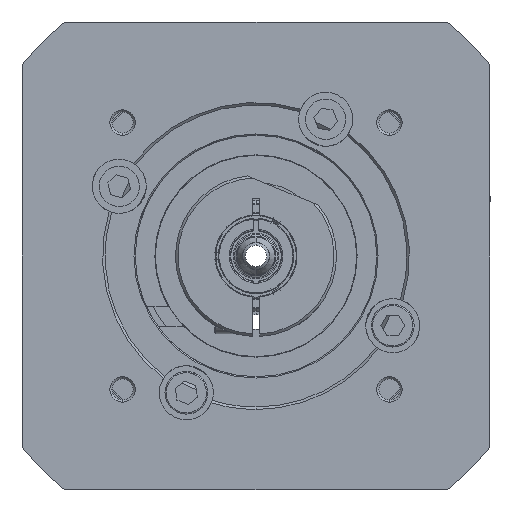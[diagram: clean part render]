
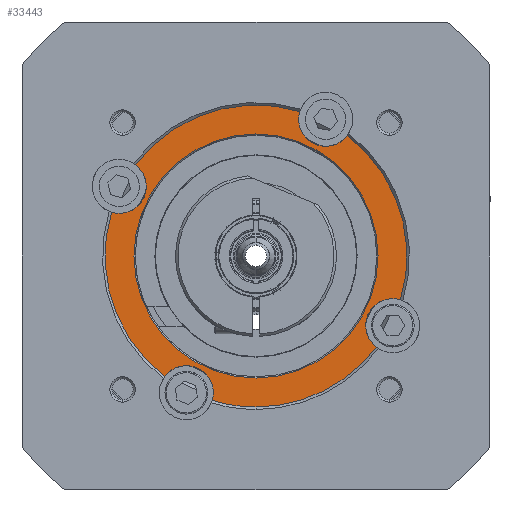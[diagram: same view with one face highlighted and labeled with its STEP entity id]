
A CAD part, left-side view. The second image highlights one B-rep face of the part: STEP entity #33443.
In plain terms, the highlighted planar face has unit normal (-1, 0, 0).
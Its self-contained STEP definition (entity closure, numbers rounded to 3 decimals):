
#283 = DIRECTION ( 'NONE',  ( -1., 0., 0. ) ) ;
#553 = CARTESIAN_POINT ( 'NONE',  ( -124.5, 13.847, -27.176 ) ) ;
#852 = CIRCLE ( 'NONE', #51006, 30. ) ;
#1093 = VERTEX_POINT ( 'NONE', #28177 ) ;
#1187 = EDGE_CURVE ( 'NONE', #59121, #57963, #2959, .T. ) ;
#1217 = EDGE_CURVE ( 'NONE', #57963, #59121, #36415, .T. ) ;
#2654 = CARTESIAN_POINT ( 'NONE',  ( -124.5, 27.176, 8.472 ) ) ;
#2959 = CIRCLE ( 'NONE', #28515, 24.25 ) ;
#3158 = CARTESIAN_POINT ( 'NONE',  ( -124.5, 0., 0. ) ) ;
#3532 = CARTESIAN_POINT ( 'NONE',  ( -124.5, 0., 0. ) ) ;
#4374 = DIRECTION ( 'NONE',  ( 0., 0., -1. ) ) ;
#4661 = DIRECTION ( 'NONE',  ( 0., 0., -1. ) ) ;
#4784 = CARTESIAN_POINT ( 'NONE',  ( -124.5, 0., 0. ) ) ;
#5007 = ORIENTED_EDGE ( 'NONE', *, *, #29647, .F. ) ;
#5082 = DIRECTION ( 'NONE',  ( 1., 0., 0. ) ) ;
#5501 = VERTEX_POINT ( 'NONE', #11294 ) ;
#6573 = DIRECTION ( 'NONE',  ( 0., 0., -1. ) ) ;
#6609 = ORIENTED_EDGE ( 'NONE', *, *, #1217, .T. ) ;
#7127 = VERTEX_POINT ( 'NONE', #8046 ) ;
#8046 = CARTESIAN_POINT ( 'NONE',  ( -124.5, -27.176, -8.472 ) ) ;
#8076 = CARTESIAN_POINT ( 'NONE',  ( -124.5, 0., 0. ) ) ;
#8479 = AXIS2_PLACEMENT_3D ( 'NONE', #553, #46713, #52236 ) ;
#8754 = DIRECTION ( 'NONE',  ( -1., 0., 0. ) ) ;
#8795 = DIRECTION ( 'NONE',  ( 0., 0., -1. ) ) ;
#9565 = AXIS2_PLACEMENT_3D ( 'NONE', #20741, #53333, #6573 ) ;
#9774 = CARTESIAN_POINT ( 'NONE',  ( -124.5, 0., -24.25 ) ) ;
#10018 = DIRECTION ( 'NONE',  ( 0., 0., -1. ) ) ;
#10309 = ORIENTED_EDGE ( 'NONE', *, *, #31196, .T. ) ;
#10652 = DIRECTION ( 'NONE',  ( 0., 0., -1. ) ) ;
#11294 = CARTESIAN_POINT ( 'NONE',  ( -124.5, -18.117, 23.912 ) ) ;
#11851 = EDGE_CURVE ( 'NONE', #23835, #35949, #54254, .T. ) ;
#12723 = CIRCLE ( 'NONE', #47122, 30. ) ;
#12916 = AXIS2_PLACEMENT_3D ( 'NONE', #3158, #17984, #51172 ) ;
#12949 = EDGE_CURVE ( 'NONE', #1093, #5501, #39472, .T. ) ;
#13777 = DIRECTION ( 'NONE',  ( -1., 0., 0. ) ) ;
#14055 = CARTESIAN_POINT ( 'NONE',  ( -124.5, 0., 24.25 ) ) ;
#14714 = CARTESIAN_POINT ( 'NONE',  ( -124.5, 0., 0. ) ) ;
#14991 = CIRCLE ( 'NONE', #17969, 5.375 ) ;
#17969 = AXIS2_PLACEMENT_3D ( 'NONE', #47726, #48027, #4661 ) ;
#17984 = DIRECTION ( 'NONE',  ( -1., 0., 0. ) ) ;
#18153 = EDGE_CURVE ( 'NONE', #55364, #40831, #45958, .T. ) ;
#18359 = CARTESIAN_POINT ( 'NONE',  ( -124.5, 13.847, -21.801 ) ) ;
#18408 = AXIS2_PLACEMENT_3D ( 'NONE', #51005, #55609, #32212 ) ;
#19088 = ORIENTED_EDGE ( 'NONE', *, *, #1187, .T. ) ;
#19368 = CIRCLE ( 'NONE', #18408, 5.375 ) ;
#19371 = PLANE ( 'NONE',  #57136 ) ;
#19655 = DIRECTION ( 'NONE',  ( 0., 0., -1. ) ) ;
#20709 = DIRECTION ( 'NONE',  ( 0., 0., -1. ) ) ;
#20741 = CARTESIAN_POINT ( 'NONE',  ( -124.5, -13.847, 27.176 ) ) ;
#21987 = ORIENTED_EDGE ( 'NONE', *, *, #47830, .F. ) ;
#22336 = DIRECTION ( 'NONE',  ( 0., 0., -1. ) ) ;
#22460 = DIRECTION ( 'NONE',  ( -1., 0., 0. ) ) ;
#23075 = AXIS2_PLACEMENT_3D ( 'NONE', #34844, #59109, #40678 ) ;
#23585 = DIRECTION ( 'NONE',  ( 1., 0., 0. ) ) ;
#23835 = VERTEX_POINT ( 'NONE', #51876 ) ;
#23951 = FACE_OUTER_BOUND ( 'NONE', #25270, .T. ) ;
#25270 = EDGE_LOOP ( 'NONE', ( #41675, #10309, #47728, #21987, #57893, #5007, #36153, #25780, #39873, #51680, #32639, #42553, #58116 ) ) ;
#25298 = CARTESIAN_POINT ( 'NONE',  ( -124.5, -13.847, 27.176 ) ) ;
#25387 = CIRCLE ( 'NONE', #48978, 5.375 ) ;
#25780 = ORIENTED_EDGE ( 'NONE', *, *, #11851, .T. ) ;
#27349 = CARTESIAN_POINT ( 'NONE',  ( -124.5, 0., 0. ) ) ;
#28177 = CARTESIAN_POINT ( 'NONE',  ( -124.5, -28.712, -8.696 ) ) ;
#28515 = AXIS2_PLACEMENT_3D ( 'NONE', #4784, #23585, #8795 ) ;
#28868 = DIRECTION ( 'NONE',  ( 0., 0., -1. ) ) ;
#29647 = EDGE_CURVE ( 'NONE', #54129, #36425, #50765, .T. ) ;
#30219 = DIRECTION ( 'NONE',  ( -1., 0., 0. ) ) ;
#31196 = EDGE_CURVE ( 'NONE', #55364, #50778, #12723, .T. ) ;
#31489 = EDGE_CURVE ( 'NONE', #46665, #36425, #852, .T. ) ;
#31656 = EDGE_CURVE ( 'NONE', #23835, #54129, #44122, .T. ) ;
#32212 = DIRECTION ( 'NONE',  ( 0., 0., -1. ) ) ;
#32267 = DIRECTION ( 'NONE',  ( 0., 0., -1. ) ) ;
#32639 = ORIENTED_EDGE ( 'NONE', *, *, #57188, .F. ) ;
#32704 = CIRCLE ( 'NONE', #40592, 30. ) ;
#32790 = CARTESIAN_POINT ( 'NONE',  ( -124.5, -23.912, -18.117 ) ) ;
#33443 = ADVANCED_FACE ( 'NONE', ( #23951, #47013 ), #19371, .T. ) ;
#34098 = DIRECTION ( 'NONE',  ( 0., 0., -1. ) ) ;
#34477 = EDGE_LOOP ( 'NONE', ( #19088, #6609 ) ) ;
#34763 = VERTEX_POINT ( 'NONE', #2654 ) ;
#34844 = CARTESIAN_POINT ( 'NONE',  ( -124.5, -27.176, -13.847 ) ) ;
#35041 = CIRCLE ( 'NONE', #37036, 5.375 ) ;
#35949 = VERTEX_POINT ( 'NONE', #39811 ) ;
#36085 = DIRECTION ( 'NONE',  ( -1., 0., 0. ) ) ;
#36153 = ORIENTED_EDGE ( 'NONE', *, *, #31656, .F. ) ;
#36415 = CIRCLE ( 'NONE', #49189, 24.25 ) ;
#36425 = VERTEX_POINT ( 'NONE', #50788 ) ;
#37036 = AXIS2_PLACEMENT_3D ( 'NONE', #42415, #283, #34098 ) ;
#38587 = VERTEX_POINT ( 'NONE', #32790 ) ;
#39472 = CIRCLE ( 'NONE', #12916, 30. ) ;
#39811 = CARTESIAN_POINT ( 'NONE',  ( -124.5, 0., -30. ) ) ;
#39873 = ORIENTED_EDGE ( 'NONE', *, *, #58479, .T. ) ;
#40546 = CARTESIAN_POINT ( 'NONE',  ( -124.5, -8.696, 28.712 ) ) ;
#40592 = AXIS2_PLACEMENT_3D ( 'NONE', #47017, #56845, #28868 ) ;
#40678 = DIRECTION ( 'NONE',  ( 0., 0., -1. ) ) ;
#40831 = VERTEX_POINT ( 'NONE', #57113 ) ;
#41007 = CARTESIAN_POINT ( 'NONE',  ( -124.5, 13.847, -27.176 ) ) ;
#41675 = ORIENTED_EDGE ( 'NONE', *, *, #18153, .F. ) ;
#42415 = CARTESIAN_POINT ( 'NONE',  ( -124.5, 27.176, 13.847 ) ) ;
#42553 = ORIENTED_EDGE ( 'NONE', *, *, #12949, .T. ) ;
#43522 = CARTESIAN_POINT ( 'NONE',  ( -124.5, 23.912, 18.117 ) ) ;
#44122 = CIRCLE ( 'NONE', #52956, 5.375 ) ;
#45958 = CIRCLE ( 'NONE', #9565, 5.375 ) ;
#46242 = EDGE_CURVE ( 'NONE', #7127, #38587, #49572, .T. ) ;
#46531 = DIRECTION ( 'NONE',  ( -1., 0., 0. ) ) ;
#46665 = VERTEX_POINT ( 'NONE', #47867 ) ;
#46713 = DIRECTION ( 'NONE',  ( -1., 0., 0. ) ) ;
#47013 = FACE_BOUND ( 'NONE', #34477, .T. ) ;
#47017 = CARTESIAN_POINT ( 'NONE',  ( -124.5, 0., 0. ) ) ;
#47122 = AXIS2_PLACEMENT_3D ( 'NONE', #27349, #22460, #32267 ) ;
#47624 = EDGE_CURVE ( 'NONE', #34763, #50778, #35041, .T. ) ;
#47726 = CARTESIAN_POINT ( 'NONE',  ( -124.5, -27.176, -13.847 ) ) ;
#47728 = ORIENTED_EDGE ( 'NONE', *, *, #47624, .F. ) ;
#47830 = EDGE_CURVE ( 'NONE', #46665, #34763, #19368, .T. ) ;
#47862 = CARTESIAN_POINT ( 'NONE',  ( -124.5, 0., 0. ) ) ;
#47867 = CARTESIAN_POINT ( 'NONE',  ( -124.5, 28.712, 8.696 ) ) ;
#48027 = DIRECTION ( 'NONE',  ( -1., 0., 0. ) ) ;
#48978 = AXIS2_PLACEMENT_3D ( 'NONE', #25298, #30219, #20709 ) ;
#49189 = AXIS2_PLACEMENT_3D ( 'NONE', #47862, #5082, #10018 ) ;
#49505 = EDGE_CURVE ( 'NONE', #40831, #5501, #25387, .T. ) ;
#49572 = CIRCLE ( 'NONE', #23075, 5.375 ) ;
#50765 = CIRCLE ( 'NONE', #8479, 5.375 ) ;
#50778 = VERTEX_POINT ( 'NONE', #43522 ) ;
#50788 = CARTESIAN_POINT ( 'NONE',  ( -124.5, 18.117, -23.912 ) ) ;
#51005 = CARTESIAN_POINT ( 'NONE',  ( -124.5, 27.176, 13.847 ) ) ;
#51006 = AXIS2_PLACEMENT_3D ( 'NONE', #8076, #36085, #10652 ) ;
#51172 = DIRECTION ( 'NONE',  ( 0., 0., -1. ) ) ;
#51680 = ORIENTED_EDGE ( 'NONE', *, *, #46242, .F. ) ;
#51876 = CARTESIAN_POINT ( 'NONE',  ( -124.5, 8.696, -28.712 ) ) ;
#52236 = DIRECTION ( 'NONE',  ( 0., 0., -1. ) ) ;
#52956 = AXIS2_PLACEMENT_3D ( 'NONE', #41007, #46531, #4374 ) ;
#53333 = DIRECTION ( 'NONE',  ( -1., 0., 0. ) ) ;
#54129 = VERTEX_POINT ( 'NONE', #18359 ) ;
#54254 = CIRCLE ( 'NONE', #59174, 30. ) ;
#55364 = VERTEX_POINT ( 'NONE', #40546 ) ;
#55609 = DIRECTION ( 'NONE',  ( -1., 0., 0. ) ) ;
#56845 = DIRECTION ( 'NONE',  ( -1., 0., 0. ) ) ;
#57113 = CARTESIAN_POINT ( 'NONE',  ( -124.5, -13.847, 21.801 ) ) ;
#57136 = AXIS2_PLACEMENT_3D ( 'NONE', #14714, #13777, #19655 ) ;
#57188 = EDGE_CURVE ( 'NONE', #1093, #7127, #14991, .T. ) ;
#57893 = ORIENTED_EDGE ( 'NONE', *, *, #31489, .T. ) ;
#57963 = VERTEX_POINT ( 'NONE', #14055 ) ;
#58116 = ORIENTED_EDGE ( 'NONE', *, *, #49505, .F. ) ;
#58479 = EDGE_CURVE ( 'NONE', #35949, #38587, #32704, .T. ) ;
#59109 = DIRECTION ( 'NONE',  ( -1., 0., 0. ) ) ;
#59121 = VERTEX_POINT ( 'NONE', #9774 ) ;
#59174 = AXIS2_PLACEMENT_3D ( 'NONE', #3532, #8754, #22336 ) ;
